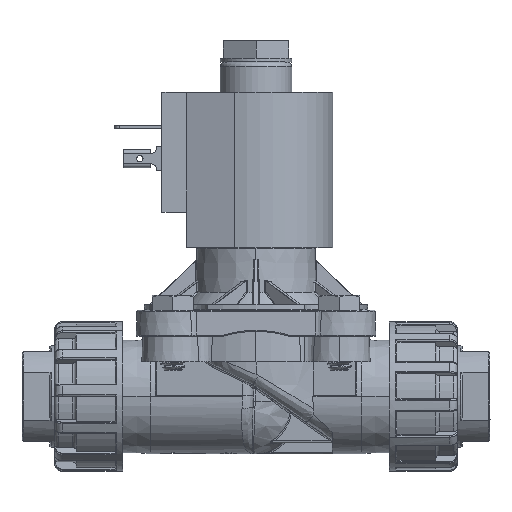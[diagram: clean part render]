
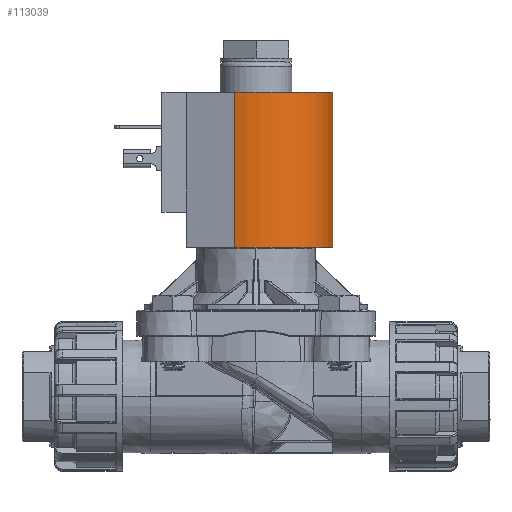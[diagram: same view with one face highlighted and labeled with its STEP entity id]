
A CAD part, top view. The second image highlights one B-rep face of the part: STEP entity #113039.
In plain terms, the highlighted cylindrical face has radius 20.32 mm (diameter 40.64 mm), a partial arc.
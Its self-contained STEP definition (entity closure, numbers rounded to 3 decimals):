
#165 = VERTEX_POINT ( 'NONE', #98608 ) ;
#2896 = DIRECTION ( 'NONE',  ( 0., -1., 0. ) ) ;
#9834 = ORIENTED_EDGE ( 'NONE', *, *, #43649, .T. ) ;
#10298 = CARTESIAN_POINT ( 'NONE',  ( 20.32, 73.508, 0. ) ) ;
#17583 = DIRECTION ( 'NONE',  ( 0., -1., 0. ) ) ;
#20630 = AXIS2_PLACEMENT_3D ( 'NONE', #88194, #77875, #79081 ) ;
#20987 = VECTOR ( 'NONE', #2896, 1000. ) ;
#35922 = ORIENTED_EDGE ( 'NONE', *, *, #100204, .F. ) ;
#37875 = CIRCLE ( 'NONE', #68809, 20.32 ) ;
#39290 = CARTESIAN_POINT ( 'NONE',  ( -5.608, 73.508, 19.531 ) ) ;
#39477 = ORIENTED_EDGE ( 'NONE', *, *, #68047, .F. ) ;
#43649 = EDGE_CURVE ( 'NONE', #86619, #47437, #111442, .T. ) ;
#46058 = VECTOR ( 'NONE', #17583, 1000. ) ;
#47290 = DIRECTION ( 'NONE',  ( 0., -1., 0. ) ) ;
#47437 = VERTEX_POINT ( 'NONE', #96159 ) ;
#47663 = CARTESIAN_POINT ( 'NONE',  ( -5.608, 73.508, 19.531 ) ) ;
#47875 = DIRECTION ( 'NONE',  ( 1., 0., 0. ) ) ;
#48475 = CYLINDRICAL_SURFACE ( 'NONE', #87884, 20.32 ) ;
#68047 = EDGE_CURVE ( 'NONE', #76786, #165, #91527, .T. ) ;
#68809 = AXIS2_PLACEMENT_3D ( 'NONE', #117995, #82203, #76084 ) ;
#76084 = DIRECTION ( 'NONE',  ( -1., 0., 0. ) ) ;
#76786 = VERTEX_POINT ( 'NONE', #79026 ) ;
#77875 = DIRECTION ( 'NONE',  ( 0., 1., 0. ) ) ;
#79026 = CARTESIAN_POINT ( 'NONE',  ( 20.32, 73.508, 0. ) ) ;
#79081 = DIRECTION ( 'NONE',  ( -1., 0., 0. ) ) ;
#81525 = EDGE_CURVE ( 'NONE', #47437, #165, #101963, .T. ) ;
#82203 = DIRECTION ( 'NONE',  ( 0., 1., 0. ) ) ;
#86619 = VERTEX_POINT ( 'NONE', #47663 ) ;
#87884 = AXIS2_PLACEMENT_3D ( 'NONE', #103669, #47290, #47875 ) ;
#88194 = CARTESIAN_POINT ( 'NONE',  ( 0., 32.36, 0. ) ) ;
#88832 = ORIENTED_EDGE ( 'NONE', *, *, #81525, .T. ) ;
#91527 = LINE ( 'NONE', #10298, #46058 ) ;
#91681 = EDGE_LOOP ( 'NONE', ( #39477, #35922, #9834, #88832 ) ) ;
#93372 = FACE_OUTER_BOUND ( 'NONE', #91681, .T. ) ;
#96159 = CARTESIAN_POINT ( 'NONE',  ( -5.608, 32.36, 19.531 ) ) ;
#98608 = CARTESIAN_POINT ( 'NONE',  ( 20.32, 32.36, 0. ) ) ;
#100204 = EDGE_CURVE ( 'NONE', #86619, #76786, #37875, .T. ) ;
#101963 = CIRCLE ( 'NONE', #20630, 20.32 ) ;
#103669 = CARTESIAN_POINT ( 'NONE',  ( 0., 73.508, 0. ) ) ;
#111442 = LINE ( 'NONE', #39290, #20987 ) ;
#113039 = ADVANCED_FACE ( 'Defeatured_0_1762', ( #93372 ), #48475, .T. ) ;
#117995 = CARTESIAN_POINT ( 'NONE',  ( 0., 73.508, 0. ) ) ;
